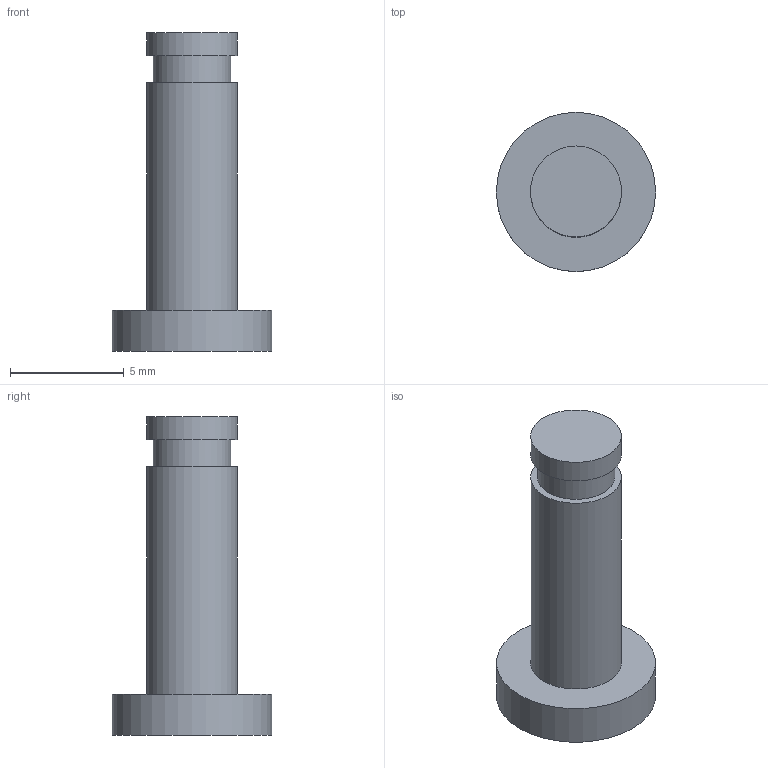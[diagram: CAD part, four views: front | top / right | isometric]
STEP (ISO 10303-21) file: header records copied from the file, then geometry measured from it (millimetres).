
FILE_DESCRIPTION(('Open CASCADE Model'),'2;1');
FILE_NAME('CP-PIN4','2026-11-15T22:30:30',('Author'),('Open CASCADE'), 'Open CASCADE STEP processor 8.0','build123d','Unknown');
FILE_SCHEMA(('AUTOMOTIVE_DESIGN { 1 0 10303 214 1 1 1 1 }'));
Length unit declared in the file: millimetre
Products named in the file (1): CP-PIN4
Bounding box: 7 x 7 x 14 mm (x, y, z)
Volume: 218.4 mm3; surface area: 274.6 mm2
Topology: 1 solids, 1 shells, 9 faces, 12 edges, 8 vertices
Faces by surface type: plane 5, cylinder 4
Full cylindrical faces by diameter (mm): 3.4 x1, 4 x2, 7 x1
Entity records: 360 total; most frequent: DIRECTION 64, CARTESIAN_POINT 54, ORIENTED_EDGE 24, PCURVE 24, DEFINITIONAL_REPRESENTATION 24, LINE 20, VECTOR 20, AXIS2_PLACEMENT_3D 18
